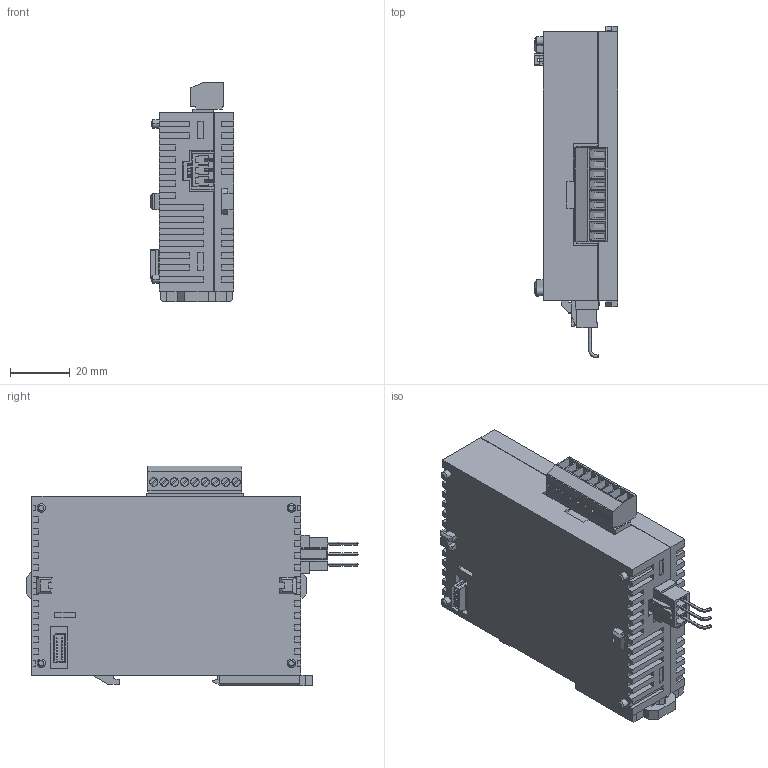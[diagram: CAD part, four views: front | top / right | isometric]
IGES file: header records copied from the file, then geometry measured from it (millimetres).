
Global section: organization: PanasonicElectricWorks; date: 080828.133528; units: millimetre
Bounding box: 28 x 111.19 x 73.45 mm (x, y, z)
Surface area: 25504.4 mm2 (no closed solid volume)
Topology: 0 solids, 0 shells, 830 faces, 5774 edges, 5772 vertices
Faces by surface type: bspline 765, revolution 65
